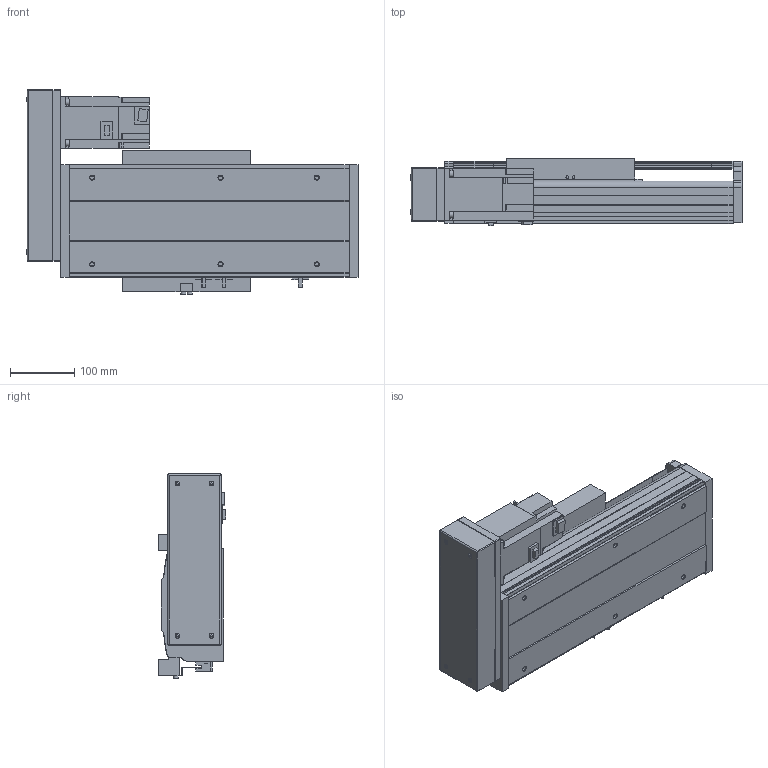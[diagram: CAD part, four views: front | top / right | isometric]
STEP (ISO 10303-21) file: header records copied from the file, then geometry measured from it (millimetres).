
FILE_DESCRIPTION(/* description */ ('STEP AP214'),/* implementation_level */ '2;1');
FILE_NAME(/* name */ 'PSS200-L10-S100-BL-T75-C1-N(0)',/* time_stamp */ '2022-06-06T04:49:29+02:00',/* author */ ('License CC BY-ND 4.0'),/* organization */ ('CADENAS'),/* preprocessor_version */ 'ST-DEVELOPER v18.102',/* originating_system */ 'PARTsolutions',/* authorisation */ ' ');
FILE_SCHEMA (('AUTOMOTIVE_DESIGN {1 0 10303 214 3 1 1}'));
Length unit declared in the file: millimetre
Products named in the file (8): PSS200-L10-S100-BL-T75-C1-N(0); PSS200-S100-BL-N_S; T75-p1; PSS200BL-N_h; PSS200-N_sensor; PSS200-BL-C1-N_sl; PSS200-N_Q; PSS200-S100-BL-C1-N_body
Assembly tree (9 placements, depth 2):
  PSS200-L10-S100-BL-T75-C1-N(0)
    PSS200-S100-BL-N_S
    T75-p1
    PSS200BL-N_h
    PSS200-N_sensor  x3
    PSS200-BL-C1-N_sl
    PSS200-N_Q
    PSS200-S100-BL-C1-N_body
Bounding box: 516.85 x 105.3 x 317.86 mm (x, y, z)
Volume: 5410677 mm3; surface area: 988911 mm2
Topology: 9 solids, 9 shells, 592 faces, 1573 edges, 1038 vertices
Faces by surface type: plane 466, cylinder 108, cone 14, sphere 4
Full cylindrical faces by diameter (mm): 4 x2, 4.5 x4, 6 x7, 6.647 x10, 7.4 x4, 8 x8, 10 x6, 25 x1, 40 x1, 67 x1
Entity records: 16401 total; most frequent: CARTESIAN_POINT 2827, DIRECTION 2712, ORIENTED_EDGE 2702, EDGE_CURVE 1351, LINE 1090, VECTOR 1090, VERTEX_POINT 926, AXIS2_PLACEMENT_3D 811
